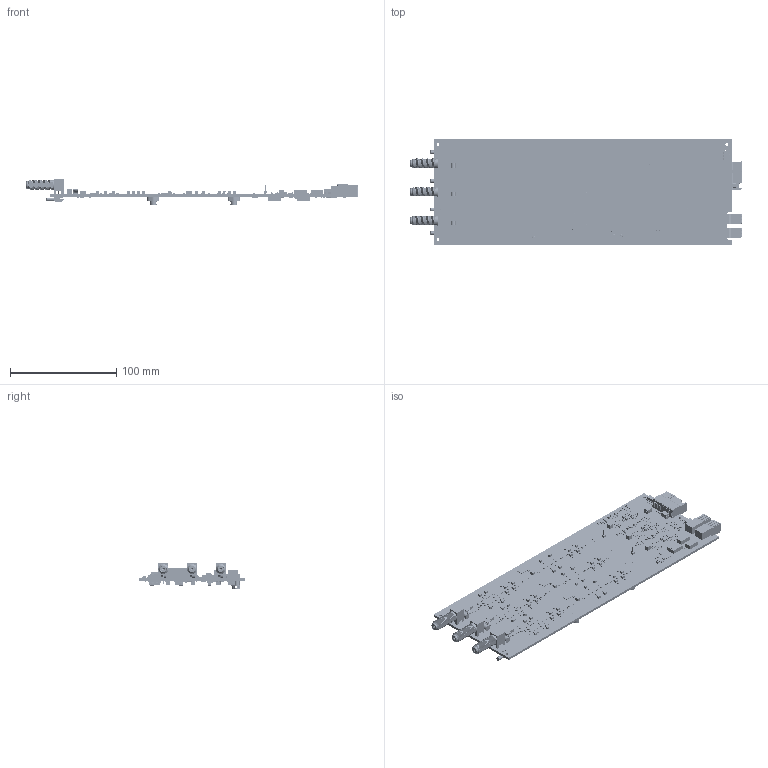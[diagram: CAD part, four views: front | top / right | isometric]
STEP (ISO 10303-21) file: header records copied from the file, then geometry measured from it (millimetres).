
FILE_DESCRIPTION(('STEP AP214'),'1');
FILE_NAME('RCU2_LB.step','2022-02-25T16:33:06',(' '),(' '),'Spatial InterOp 3D','XD3DPlugin XRACreate',' ');
FILE_SCHEMA(('automotive_design'));
Length unit declared in the file: millimetre
Products named in the file (213): Submodel-AssyDefn_1; AST00657.sat; RCU2_LB; Submodel-M:\VIEWlogic\Projects\LOFAR_2\RCU2.0\RCU2_LB\LB_Rev3\PCB\Layout\3D\Input_S\PAT0402E1001BST1.xtd; PAT0402E1001BST1; Submodel-RES0402_CRCW_VH_part_simplified_RESC1005X40N_VH; DesignRootModel; Submodel-M:\VIEWlogic\Projects\LOFAR_2\RCU2.0\RCU2_LB\LB_Rev3\PCB\Layout\3D\Input_S\04023J5R1BBSTR.xtd; 04023J5R1BBSTR; Submodel-CAP0402_MRT_part_simplified_CAPC1005X55N_MRT; Submodel-M:\VIEWlogic\Projects\LOFAR_2\RCU2.0\RCU2_LB\LB_Rev3\PCB\Layout\3D\Input_S\GRM1885C1H682JA01D.xtd; GRM1885C1H682JA01D; Submodel-CAP0603_PYG_part_simplified_CAPC1608X145N_PYG; Submodel-M:\VIEWlogic\Projects\LOFAR_2\RCU2.0\RCU2_LB\LB_Rev3\PCB\Layout\3D\Input_S\PCF-W0603LF-03-8452-F-P-LT.xtd; PCF-W0603LF-03-8452-F-P-LT; Submodel-RES0603_PYG_part_simplified_RESC1608X55N_PYG; Submodel-M:\VIEWlogic\Projects\LOFAR_2\RCU2.0\RCU2_LB\LB_Rev3\PCB\Layout\3D\Input_S\GRM188R72A104KA35J.xtd; GRM188R72A104KA35J; Submodel-CAP0603_MRT_part_simplified_CAPC1608X90N_MRT; Submodel-M:\VIEWlogic\Projects\LOFAR_2\RCU2.0\RCU2_LB\LB_Rev3\PCB\Layout\3D\Input_S\cap_UMK107ABJ474KA-T_TAY.xtd; cap_UMK107ABJ474KA-T_TAY; Submodel-CAP0603_TY_part_simplified_CAPC1608X80N_TY; Submodel-M:\VIEWlogic\Projects\LOFAR_2\RCU2.0\RCU2_LB\LB_Rev3\PCB\Layout\3D\Input_S\VJ0805Y122KEXAC.xtd; VJ0805Y122KEXAC; Submodel-CAP0805_GRM21_MRT_part_simplified_CAPC2013X145N_MRT2; Submodel-M:\VIEWlogic\Projects\LOFAR_2\RCU2.0\RCU2_LB\LB_Rev3\PCB\Layout\3D\Input_S\xd_capcm_30.xtd; xd_capcm_30; Submodel-CAPPE_AVX_part_simplified_CAPMP7344X430NB_AVX; Submodel-M:\VIEWlogic\Projects\LOFAR_2\RCU2.0\RCU2_LB\LB_Rev3\PCB\Layout\3D\Input_S\TCA9539PWR.xtd; TCA9539PWR; Submodel-TCA9539PWR_part_simplified_SOP65P640X120-24N2_TI; Submodel-M:\VIEWlogic\Projects\LOFAR_2\RCU2.0\RCU2_LB\LB_Rev3\PCB\Layout\3D\Input_S\NB7L14MNHTBG.xtd; NB7L14MNHTBG; Submodel-NB7L14_part_simplified_QFN50P300X300X100-17N2_ONS; Submodel-M:\VIEWlogic\Projects\LOFAR_2\RCU2.0\RCU2_LB\LB_Rev3\PCB\Layout\3D\Input_S\LTST-C155GYKT--3DModel-STEP-56544.xtd; LTST-C155GYKT--3DModel-STEP-56544; Submodel-MCLED1210_part_simplified_DIOCAV140P320X270X130-4N_FC; Submodel-M:\VIEWlogic\Projects\LOFAR_2\RCU2.0\RCU2_LB\LB_Rev3\PCB\Layout\3D\Input_S\SOIC_10-C2-GT_SIL.xtd; SOIC_10-C2-GT_SIL; Submodel-SI4012_part_simplified_SOP10P50_300X490X110L60X25N_SL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
Assembly tree (1209 placements, depth 5):
  RCU2_LB
    Submodel-AssyDefn_1  x4
      AST00657.sat
    DesignRootModel
      Submodel-RES0402_CRCW_VH_part_simplified_RESC1005X40N_VH  x250
        Submodel-M:\VIEWlogic\Projects\LOFAR_2\RCU2.0\RCU2_LB\LB_Rev3\PCB\Layout\3D\Input_S\PAT0402E1001BST1.xtd
          PAT0402E1001BST1
      Submodel-CAP0402_MRT_part_simplified_CAPC1005X55N_MRT  x242
        Submodel-M:\VIEWlogic\Projects\LOFAR_2\RCU2.0\RCU2_LB\LB_Rev3\PCB\Layout\3D\Input_S\04023J5R1BBSTR.xtd
          04023J5R1BBSTR
      Submodel-CAP0603_PYG_part_simplified_CAPC1608X145N_PYG  x15
        Submodel-M:\VIEWlogic\Projects\LOFAR_2\RCU2.0\RCU2_LB\LB_Rev3\PCB\Layout\3D\Input_S\GRM1885C1H682JA01D.xtd
          GRM1885C1H682JA01D
      Submodel-RES0603_PYG_part_simplified_RESC1608X55N_PYG  x81
        Submodel-M:\VIEWlogic\Projects\LOFAR_2\RCU2.0\RCU2_LB\LB_Rev3\PCB\Layout\3D\Input_S\PCF-W0603LF-03-8452-F-P-LT.xtd
          PCF-W0603LF-03-8452-F-P-LT
      Submodel-CAP0603_MRT_part_simplified_CAPC1608X90N_MRT  x56
        Submodel-M:\VIEWlogic\Projects\LOFAR_2\RCU2.0\RCU2_LB\LB_Rev3\PCB\Layout\3D\Input_S\GRM188R72A104KA35J.xtd
          GRM188R72A104KA35J
      Submodel-CAP0603_TY_part_simplified_CAPC1608X80N_TY  x23
        Submodel-M:\VIEWlogic\Projects\LOFAR_2\RCU2.0\RCU2_LB\LB_Rev3\PCB\Layout\3D\Input_S\cap_UMK107ABJ474KA-T_TAY.xtd
          cap_UMK107ABJ474KA-T_TAY
      Submodel-CAP0805_GRM21_MRT_part_simplified_CAPC2013X145N_MRT2  x42
        Submodel-M:\VIEWlogic\Projects\LOFAR_2\RCU2.0\RCU2_LB\LB_Rev3\PCB\Layout\3D\Input_S\VJ0805Y122KEXAC.xtd
          VJ0805Y122KEXAC
      Submodel-CAPPE_AVX_part_simplified_CAPMP7344X430NB_AVX  x9
        Submodel-M:\VIEWlogic\Projects\LOFAR_2\RCU2.0\RCU2_LB\LB_Rev3\PCB\Layout\3D\Input_S\xd_capcm_30.xtd
          xd_capcm_30
      Submodel-TCA9539PWR_part_simplified_SOP65P640X120-24N2_TI  x2
        Submodel-M:\VIEWlogic\Projects\LOFAR_2\RCU2.0\RCU2_LB\LB_Rev3\PCB\Layout\3D\Input_S\TCA9539PWR.xtd
          TCA9539PWR
      Submodel-NB7L14_part_simplified_QFN50P300X300X100-17N2_ONS  x2
        Submodel-M:\VIEWlogic\Projects\LOFAR_2\RCU2.0\RCU2_LB\LB_Rev3\PCB\Layout\3D\Input_S\NB7L14MNHTBG.xtd
          NB7L14MNHTBG
      Submodel-MCLED1210_part_simplified_DIOCAV140P320X270X130-4N_FC  x2
        Submodel-M:\VIEWlogic\Projects\LOFAR_2\RCU2.0\RCU2_LB\LB_Rev3\PCB\Layout\3D\Input_S\LTST-C155GYKT--3DModel-STEP-56544.xtd
          LTST-C155GYKT--3DModel-STEP-56544
      Submodel-SI4012_part_simplified_SOP10P50_300X490X110L60X25N_SL  x3
        Submodel-M:\VIEWlogic\Projects\LOFAR_2\RCU2.0\RCU2_LB\LB_Rev3\PCB\Layout\3D\Input_S\SOIC_10-C2-GT_SIL.xtd
          SOIC_10-C2-GT_SIL
      Submodel-BNX028_01_part_simplified_MURATA_BNX028H01  x3
        Submodel-M:\VIEWlogic\Projects\LOFAR_2\RCU2.0\RCU2_LB\LB_Rev3\PCB\Layout\3D\Input_S\BNX028-01L--3DModel-STEP-1 AST02147.xtd
          BNX028-01L--3DModel-STEP-1 AST02147
      Submodel-FB0603_WRT_part_simplified_INDC1608X100N_WRT  x16
        Submodel-M:\VIEWlogic\Projects\LOFAR_2\RCU2.0\RCU2_LB\LB_Rev3\PCB\Layout\3D\Input_S\L1608.xtd
          L1608
      Submodel-IND1008_CC_part_simplified_INDC2520X203N_CC  x60
        Submodel-M:\VIEWlogic\Projects\LOFAR_2\RCU2.0\RCU2_LB\LB_Rev3\PCB\Layout\3D\Input_S\Coilcraft-1008CS.xtd
          Coilcraft-1008CS
      Submodel-HDR1PM_ST_part_simplified_HDRV1W70P254_1X1_250X250X1346P_ST  x2
        Submodel-M:\VIEWlogic\Projects\LOFAR_2\RCU2.0\RCU2_LB\LB_Rev3\PCB\Layout\3D\Input_S\TSW-101-07-T-S.xtd
          TSW-101-07-T-S
      Submodel-LQH55D_part_simplified_INDM5750X500N_MRT  x3
        Submodel-M:\VIEWlogic\Projects\LOFAR_2\RCU2.0\RCU2_LB\LB_Rev3\PCB\Layout\3D\Input_S\LQH55DN100M03L.xtd
          LQH55DN100M03L
      Submodel-RES0402_PYG_part_simplified_RESC1005X37N_PYG  x12
        Submodel-M:\VIEWlogic\Projects\LOFAR_2\RCU2.0\RCU2_LB\LB_Rev3\PCB\Layout\3D\Input_S\CRCW0402715KFKTK.xtd
          CRCW0402715KFKTK
      Submodel-LED0603_PSN_part_simplified_LEDC1608X90N_PSN  x3
        Submodel-M:\VIEWlogic\Projects\LOFAR_2\RCU2.0\RCU2_LB\LB_Rev3\PCB\Layout\3D\Input_S\AST01139.xtd
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Bounding box: 312.51 x 100 x 24.2 mm (x, y, z)
Volume: 90344.4 mm3; surface area: 90321.3 mm2
Topology: 2056 solids, 2480 shells, 21672 faces, 50543 edges, 33073 vertices
Faces by surface type: plane 17068, cylinder 3156, sphere 608, bspline 370, torus 346, cone 124
Full cylindrical faces by diameter (mm): 0.09 x1, 0.15 x3, 0.25 x3, 0.255 x1, 0.375 x11, 0.5 x4, 0.55 x2, 1.422 x8, 1.5 x1, 1.581 x7, 1.7 x4, 1.93 x8, 2.7 x3, 2.756 x2, 2.794 x4, 3.302 x4, 3.8 x1, 6.35 x2
Entity records: 223903 total; most frequent: CARTESIAN_POINT 41318, DIRECTION 26118, ORIENTED_EDGE 23880, EDGE_CURVE 12233, LINE 10268, VECTOR 10268, VERTEX_POINT 8204, AXIS2_PLACEMENT_3D 7925
